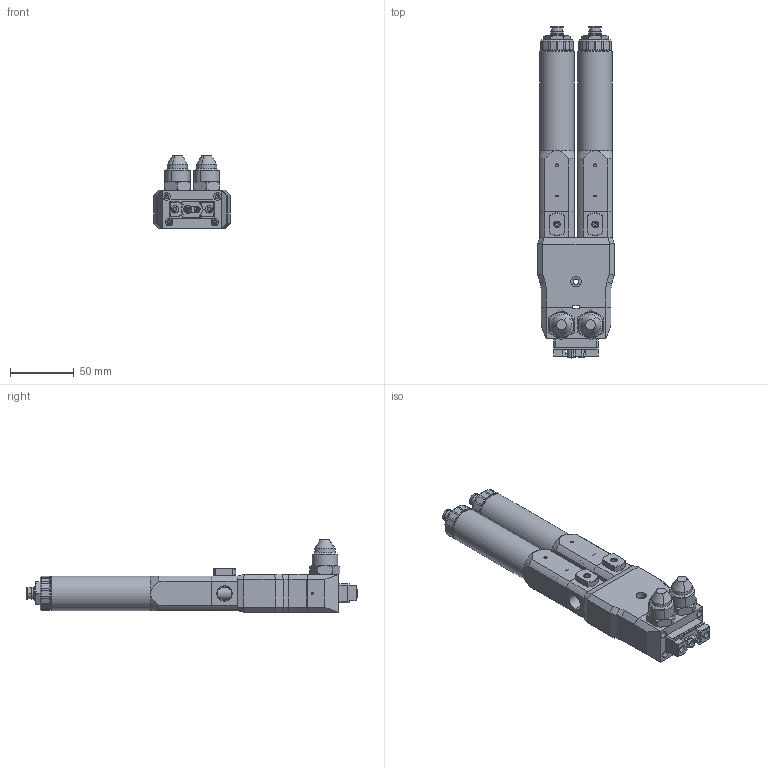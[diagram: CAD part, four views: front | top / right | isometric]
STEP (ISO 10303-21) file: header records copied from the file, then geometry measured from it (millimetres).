
FILE_DESCRIPTION (( 'STEP AP214' ), '1' );
FILE_NAME ('PDP-050-015BB.STEP', '2025-01-31T07:47:29', ( '' ), ( '' ), 'SwSTEP 2.0', 'SolidWorks 2024', '' );
FILE_SCHEMA (( 'AUTOMOTIVE_DESIGN' ));
Length unit declared in the file: millimetre
Products named in the file (1): PDP-050-015BB
Bounding box: 60 x 261 x 57.3 mm (x, y, z)
Volume: 341397.1 mm3; surface area: 89676.4 mm2
Topology: 13 solids, 13 shells, 1479 faces, 3671 edges, 2309 vertices
Faces by surface type: cylinder 595, plane 521, cone 334, bspline 21, torus 4, sphere 4
Full cylindrical faces by diameter (mm): 27 x2
Entity records: 59428 total; most frequent: CARTESIAN_POINT 24750, ORIENTED_EDGE 7254, DIRECTION 7192, EDGE_CURVE 3627, AXIS2_PLACEMENT_3D 2805, VERTEX_POINT 2309, EDGE_LOOP 1662, VECTOR 1582
